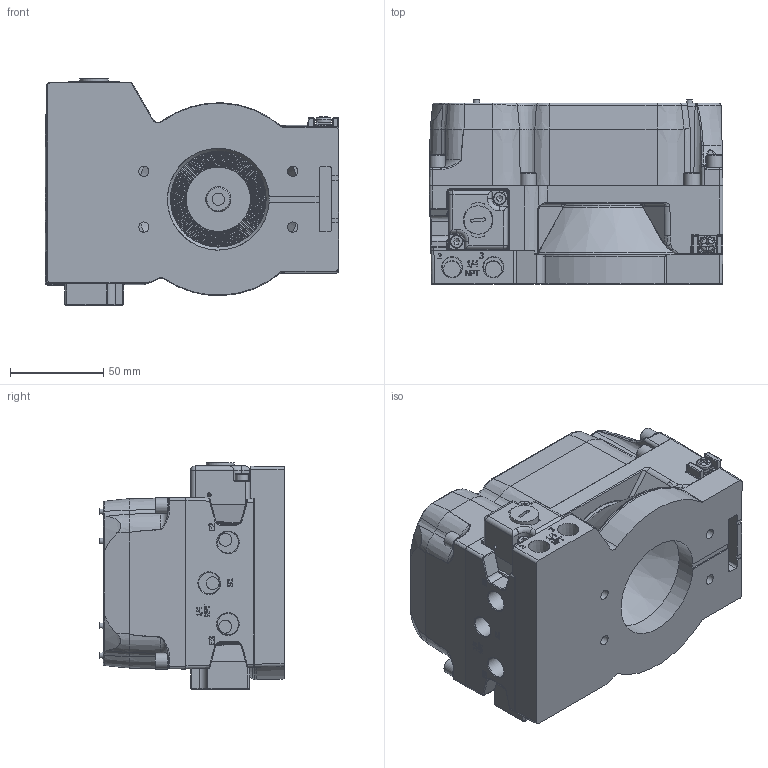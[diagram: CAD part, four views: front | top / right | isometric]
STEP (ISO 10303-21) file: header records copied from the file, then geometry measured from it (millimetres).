
FILE_DESCRIPTION(/* description */ ('HOUSING AMI 1/2 NPT PAINTED'),/* implementation_level */ '2;1');
FILE_NAME(/* name */ 'C:\vault\Engineering Documents\Work In Progress\BKunz\Platform STP files\Updated with conduits\AMI Updated STP.stp',/* time_stamp */ '2017-07-31T15:45:18-05:00',/* author */ ('ffmkunzbob'),/* organization */ (''),/* preprocessor_version */ 'ST-DEVELOPER v16.1',/* originating_system */ 'Autodesk Inventor 2016',/* authorisation */ '');
FILE_SCHEMA (('AUTOMOTIVE_DESIGN { 1 0 10303 214 3 1 1 }'));
Products named in the file (21): 401427; 428088; 408988; 404042; 402172; 408195; 402269; 408194; 433051; 605174; 449466; 448837; 456639; 605433; 450178; 450077; 408954; 450179; 408967; 411162; AMI Updated STP
Assembly tree (28 placements, depth 4):
  AMI Updated STP
    401427
    428088
    408988
    404042
    402172
    408195  x4
    605433
      605174
        402269
        408194  x4
        433051
      449466
      448837
      456639
    450178
    450077
    408954  x2
    450179
    408967  x2
    411162
Bounding box: 157.77 x 98.93 x 121.44 mm (x, y, z)
Volume: 612242.4 mm3; surface area: 268621.6 mm2
Topology: 26 solids, 26 shells, 3874 faces, 10310 edges, 6626 vertices
Faces by surface type: plane 1738, cylinder 947, bspline 665, torus 275, cone 211, sphere 38
Full cylindrical faces by diameter (mm): 1.6 x7, 2.159 x5, 2.261 x7, 2.286 x6, 3.251 x6, 3.302 x1, 3.429 x4, 3.683 x6, 4 x2, 4.013 x4, 4.089 x2, 4.14 x18, 4.166 x1, 4.191 x4, 4.445 x1, 4.978 x8, 5.004 x4, 5.156 x1, 5.512 x4, 5.558 x2, 5.563 x1, 6.096 x1, 6.223 x1, 6.35 x5, 6.604 x1, 7 x4, 7.01 x5, 8.001 x5, 8.179 x1, 8.331 x3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
Entity records: 134116 total; most frequent: CARTESIAN_POINT 46538, ORIENTED_EDGE 18614, DIRECTION 15773, EDGE_CURVE 9307, VERTEX_POINT 6094, AXIS2_PLACEMENT_3D 5619, LINE 4535, VECTOR 4535
